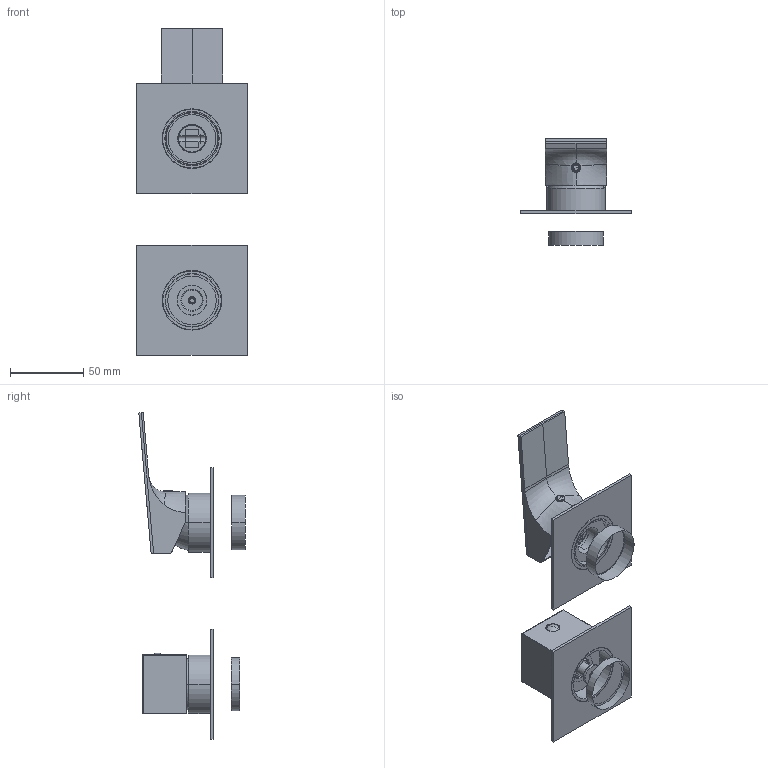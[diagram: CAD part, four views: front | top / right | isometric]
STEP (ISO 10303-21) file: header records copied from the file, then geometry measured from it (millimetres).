
FILE_DESCRIPTION((''),'2;1');
FILE_NAME('87563V2_ASM','2024-12-20T11:08:52',('volponeff'),(''),'CREO PARAMETRIC BY PTC INC, 2022014','CREO PARAMETRIC BY PTC INC, 2022014','');
FILE_SCHEMA(('CONFIG_CONTROL_DESIGN'));
Length unit declared in the file: millimetre
Products named in the file (23): A483C20178_AF0; A302D40038_AF0; D465000187_AF0; D460000139; D494C90058; 24_01_3220_AF0; D451E50334; 24_01_3223_AF0; A536A80133_AF0; D500000882; D500001404_MAR; A536A80109; A511000105; 24_01_2006_AF0; D451D50353_AF0; A503E90162_AF0; 24_01_2014_AF0_ASM; D511000162; 24_01_2006_AF1; D451D50353_AF1; A503E90162_AF1; 24_01_2014_AF1_ASM; 87563V2_ASM
Assembly tree (23 placements, depth 3):
  87563V2_ASM
    A483C20178_AF0
    A302D40038_AF0
    D465000187_AF0
    D460000139
    D494C90058
    24_01_3220_AF0
    D451E50334
    24_01_3223_AF0
    A536A80133_AF0
    D500000882
    D500001404_MAR
    A536A80109  x2
    A511000105
    24_01_2014_AF0_ASM
      24_01_2006_AF0
      D451D50353_AF0
      A503E90162_AF0
    D511000162
    24_01_2014_AF1_ASM
      24_01_2006_AF1
      D451D50353_AF1
      A503E90162_AF1
Bounding box: 75 x 72.35 x 222.34 mm (x, y, z)
Volume: 91553.9 mm3; surface area: 86151.2 mm2
Topology: 17 solids, 27 shells, 972 faces, 2570 edges, 1662 vertices
Faces by surface type: cylinder 369, plane 287, bspline 82, torus 72, cone 68, extrusion 68, sphere 26
Entity records: 49509 total; most frequent: CARTESIAN_POINT 27238, ORIENTED_EDGE 4775, DIRECTION 4178, EDGE_CURVE 2410, VERTEX_POINT 1571, AXIS2_PLACEMENT_3D 1499, VECTOR 1180, LINE 1112
